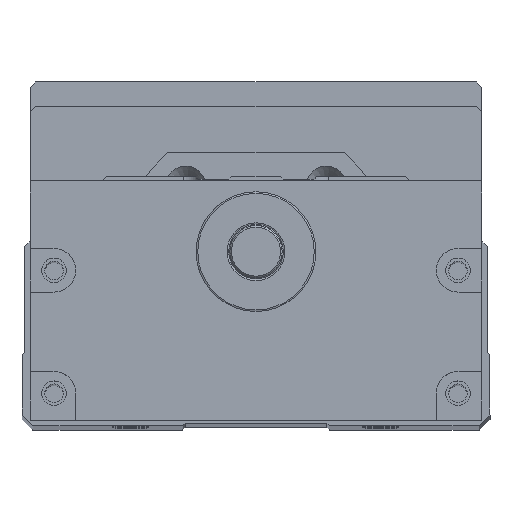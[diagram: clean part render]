
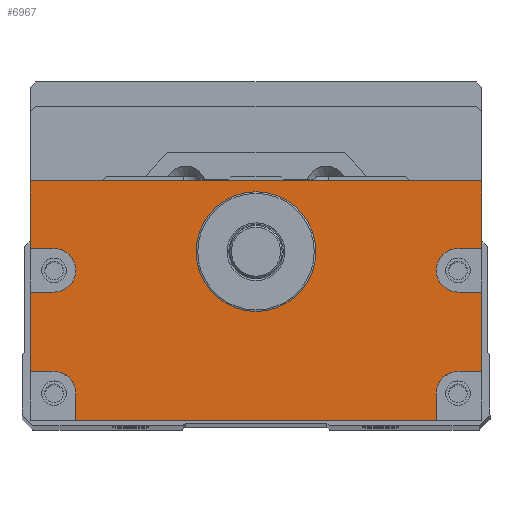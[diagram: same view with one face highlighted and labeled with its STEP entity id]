
A CAD part, top view. The second image highlights one B-rep face of the part: STEP entity #6967.
In plain terms, the highlighted planar face has unit normal (0, 0, 1).
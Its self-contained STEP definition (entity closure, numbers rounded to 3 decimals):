
#590=LINE('',#27844,#1259);
#592=LINE('',#27848,#1261);
#593=LINE('',#27851,#1262);
#594=LINE('',#27853,#1263);
#595=LINE('',#27857,#1264);
#596=LINE('',#27859,#1265);
#597=LINE('',#27860,#1266);
#598=LINE('',#27862,#1267);
#599=LINE('',#27866,#1268);
#600=LINE('',#27868,#1269);
#601=LINE('',#27870,#1270);
#602=LINE('',#27874,#1271);
#603=LINE('',#27876,#1272);
#604=LINE('',#27878,#1273);
#1259=VECTOR('',#16398,1.);
#1261=VECTOR('',#16402,1.);
#1262=VECTOR('',#16403,1.);
#1263=VECTOR('',#16404,1.);
#1264=VECTOR('',#16407,1.);
#1265=VECTOR('',#16408,1.);
#1266=VECTOR('',#16409,1.);
#1267=VECTOR('',#16410,1.);
#1268=VECTOR('',#16413,1.);
#1269=VECTOR('',#16414,1.);
#1270=VECTOR('',#16415,1.);
#1271=VECTOR('',#16418,1.);
#1272=VECTOR('',#16419,1.);
#1273=VECTOR('',#16420,1.);
#6967=ADVANCED_FACE('',(#7840,#7841),#7445,.T.);
#7445=PLANE('',#14899);
#7840=FACE_BOUND('',#8422,.T.);
#7841=FACE_BOUND('',#8423,.T.);
#8422=EDGE_LOOP('',(#9901,#9902,#9903,#9904,#9905,#9906,#9907,#9908,#9909,
#9910,#9911,#9912,#9913,#9914,#9915,#9916,#9917,#9918));
#8423=EDGE_LOOP('',(#9919));
#9901=ORIENTED_EDGE('',*,*,#13224,.F.);
#9902=ORIENTED_EDGE('',*,*,#13225,.T.);
#9903=ORIENTED_EDGE('',*,*,#13226,.F.);
#9904=ORIENTED_EDGE('',*,*,#13227,.F.);
#9905=ORIENTED_EDGE('',*,*,#13228,.F.);
#9906=ORIENTED_EDGE('',*,*,#13229,.T.);
#9907=ORIENTED_EDGE('',*,*,#13222,.T.);
#9908=ORIENTED_EDGE('',*,*,#13230,.T.);
#9909=ORIENTED_EDGE('',*,*,#13231,.F.);
#9910=ORIENTED_EDGE('',*,*,#13232,.F.);
#9911=ORIENTED_EDGE('',*,*,#13233,.F.);
#9912=ORIENTED_EDGE('',*,*,#13234,.T.);
#9913=ORIENTED_EDGE('',*,*,#13235,.F.);
#9914=ORIENTED_EDGE('',*,*,#13236,.F.);
#9915=ORIENTED_EDGE('',*,*,#13237,.F.);
#9916=ORIENTED_EDGE('',*,*,#13238,.T.);
#9917=ORIENTED_EDGE('',*,*,#13239,.F.);
#9918=ORIENTED_EDGE('',*,*,#13240,.F.);
#9919=ORIENTED_EDGE('',*,*,#13208,.T.);
#12085=VERTEX_POINT('',#27815);
#12098=VERTEX_POINT('',#27843);
#12099=VERTEX_POINT('',#27845);
#12100=VERTEX_POINT('',#27849);
#12101=VERTEX_POINT('',#27850);
#12102=VERTEX_POINT('',#27852);
#12103=VERTEX_POINT('',#27854);
#12104=VERTEX_POINT('',#27856);
#12105=VERTEX_POINT('',#27858);
#12106=VERTEX_POINT('',#27861);
#12107=VERTEX_POINT('',#27863);
#12108=VERTEX_POINT('',#27865);
#12109=VERTEX_POINT('',#27867);
#12110=VERTEX_POINT('',#27869);
#12111=VERTEX_POINT('',#27871);
#12112=VERTEX_POINT('',#27873);
#12113=VERTEX_POINT('',#27875);
#12114=VERTEX_POINT('',#27877);
#12115=VERTEX_POINT('',#27879);
#13208=EDGE_CURVE('',#12085,#12085,#14289,.T.);
#13222=EDGE_CURVE('',#12099,#12098,#590,.T.);
#13224=EDGE_CURVE('',#12100,#12101,#592,.T.);
#13225=EDGE_CURVE('',#12100,#12102,#593,.T.);
#13226=EDGE_CURVE('',#12103,#12102,#594,.T.);
#13227=EDGE_CURVE('',#12104,#12103,#14298,.T.);
#13228=EDGE_CURVE('',#12105,#12104,#595,.T.);
#13229=EDGE_CURVE('',#12105,#12099,#596,.T.);
#13230=EDGE_CURVE('',#12098,#12106,#597,.T.);
#13231=EDGE_CURVE('',#12107,#12106,#598,.T.);
#13232=EDGE_CURVE('',#12108,#12107,#14299,.T.);
#13233=EDGE_CURVE('',#12109,#12108,#599,.T.);
#13234=EDGE_CURVE('',#12109,#12110,#600,.T.);
#13235=EDGE_CURVE('',#12111,#12110,#601,.T.);
#13236=EDGE_CURVE('',#12112,#12111,#14300,.T.);
#13237=EDGE_CURVE('',#12113,#12112,#602,.T.);
#13238=EDGE_CURVE('',#12113,#12114,#603,.T.);
#13239=EDGE_CURVE('',#12115,#12114,#604,.T.);
#13240=EDGE_CURVE('',#12101,#12115,#14301,.T.);
#14289=CIRCLE('',#14883,11.);
#14298=CIRCLE('',#14895,4.);
#14299=CIRCLE('',#14896,4.);
#14300=CIRCLE('',#14897,4.);
#14301=CIRCLE('',#14898,4.);
#14883=AXIS2_PLACEMENT_3D('',#27814,#16371,#16372);
#14895=AXIS2_PLACEMENT_3D('',#27855,#16405,#16406);
#14896=AXIS2_PLACEMENT_3D('',#27864,#16411,#16412);
#14897=AXIS2_PLACEMENT_3D('',#27872,#16416,#16417);
#14898=AXIS2_PLACEMENT_3D('',#27880,#16421,#16422);
#14899=AXIS2_PLACEMENT_3D('',#27881,#16423,#16424);
#16371=DIRECTION('',(0.,0.,-1.));
#16372=DIRECTION('',(1.,0.,0.));
#16398=DIRECTION('',(-1.,0.,0.));
#16402=DIRECTION('',(-1.,0.,0.));
#16403=DIRECTION('',(0.,1.,0.));
#16404=DIRECTION('',(1.,0.,0.));
#16405=DIRECTION('',(0.,0.,1.));
#16406=DIRECTION('',(1.,0.,0.));
#16407=DIRECTION('',(-1.,0.,0.));
#16408=DIRECTION('',(0.,1.,0.));
#16409=DIRECTION('',(0.,-1.,0.));
#16410=DIRECTION('',(-1.,0.,0.));
#16411=DIRECTION('',(0.,0.,1.));
#16412=DIRECTION('',(1.,0.,0.));
#16413=DIRECTION('',(1.,0.,0.));
#16414=DIRECTION('',(0.,-1.,0.));
#16415=DIRECTION('',(-1.,0.,0.));
#16416=DIRECTION('',(0.,0.,1.));
#16417=DIRECTION('',(1.,0.,0.));
#16418=DIRECTION('',(0.,1.,0.));
#16419=DIRECTION('',(1.,0.,0.));
#16420=DIRECTION('',(0.,-1.,0.));
#16421=DIRECTION('',(0.,0.,1.));
#16422=DIRECTION('',(1.,0.,0.));
#16423=DIRECTION('',(0.,0.,1.));
#16424=DIRECTION('',(1.,0.,0.));
#27814=CARTESIAN_POINT('',(600.,0.,282.5));
#27815=CARTESIAN_POINT('',(611.,0.,282.5));
#27843=CARTESIAN_POINT('',(558.5,13.,282.5));
#27844=CARTESIAN_POINT('',(641.5,13.,282.5));
#27845=CARTESIAN_POINT('',(641.5,13.,282.5));
#27848=CARTESIAN_POINT('',(641.5,-22.,282.5));
#27849=CARTESIAN_POINT('',(641.5,-22.,282.5));
#27850=CARTESIAN_POINT('',(637.115,-22.,282.5));
#27851=CARTESIAN_POINT('',(641.5,-31.,282.5));
#27852=CARTESIAN_POINT('',(641.5,-7.431,282.5));
#27853=CARTESIAN_POINT('',(641.5,-7.431,282.5));
#27854=CARTESIAN_POINT('',(637.115,-7.431,282.5));
#27855=CARTESIAN_POINT('',(637.115,-3.431,282.5));
#27856=CARTESIAN_POINT('',(637.115,0.569,282.5));
#27857=CARTESIAN_POINT('',(641.5,0.569,282.5));
#27858=CARTESIAN_POINT('',(641.5,0.569,282.5));
#27859=CARTESIAN_POINT('',(641.5,-31.,282.5));
#27860=CARTESIAN_POINT('',(558.5,27.5,282.5));
#27861=CARTESIAN_POINT('',(558.5,0.569,282.5));
#27862=CARTESIAN_POINT('',(641.5,0.569,282.5));
#27863=CARTESIAN_POINT('',(562.885,0.569,282.5));
#27864=CARTESIAN_POINT('',(562.885,-3.431,282.5));
#27865=CARTESIAN_POINT('',(562.885,-7.431,282.5));
#27866=CARTESIAN_POINT('',(641.5,-7.431,282.5));
#27867=CARTESIAN_POINT('',(558.5,-7.431,282.5));
#27868=CARTESIAN_POINT('',(558.5,27.5,282.5));
#27869=CARTESIAN_POINT('',(558.5,-22.,282.5));
#27870=CARTESIAN_POINT('',(641.5,-22.,282.5));
#27871=CARTESIAN_POINT('',(562.885,-22.,282.5));
#27872=CARTESIAN_POINT('',(562.885,-26.,282.5));
#27873=CARTESIAN_POINT('',(566.885,-26.,282.5));
#27874=CARTESIAN_POINT('',(566.885,-31.,282.5));
#27875=CARTESIAN_POINT('',(566.885,-31.,282.5));
#27876=CARTESIAN_POINT('',(558.5,-31.,282.5));
#27877=CARTESIAN_POINT('',(633.115,-31.,282.5));
#27878=CARTESIAN_POINT('',(633.115,-31.,282.5));
#27879=CARTESIAN_POINT('',(633.115,-26.,282.5));
#27880=CARTESIAN_POINT('',(637.115,-26.,282.5));
#27881=CARTESIAN_POINT('',(641.5,-31.,282.5));
